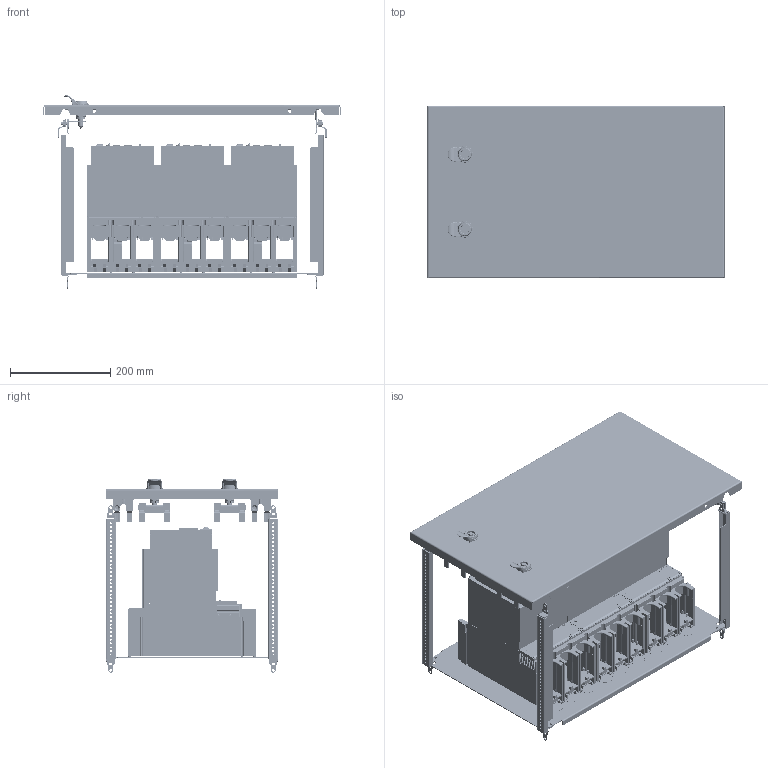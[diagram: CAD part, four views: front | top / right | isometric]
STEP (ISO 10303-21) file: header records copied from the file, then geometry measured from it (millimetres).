
FILE_DESCRIPTION(('CAx-IF Rec.Pracs.---Model Styling and Organization---1.2---2011-12-15','CAx-IF Rec.Pracs.---Geometric and Assembly Validation Properties---4.1---2014-06-16','CAx-IF Rec.Pracs.---PMI Polyline Presentation---2.0---2013-05-24'),'2;1');
FILE_NAME('R5PKEB7V62116 (F-MO).stp','2021-07-29T02:35:56+03:00',(''),(''),'STEP Interface 4.4 by CT CoreTechnologie','3D_Evolution4.4 by CT CoreTechnologie','');
FILE_SCHEMA(('AUTOMOTIVE_DESIGN { 1 0 10303 214 1 1 1 1 }'));
Length unit declared in the file: millimetre
Products named in the file (1): R5PKEB7V62116 (F-MO)
Bounding box: 594 x 345 x 386.9 mm (x, y, z)
Surface area: 3523079.5 mm2 (no closed solid volume)
Topology: 0 solids, 173 shells, 17952 faces, 52764 edges, 34832 vertices
Faces by surface type: plane 11519, cylinder 5192, bspline 1241
Entity records: 618946 total; most frequent: CARTESIAN_POINT 136420, ORIENTED_EDGE 105102, DIRECTION 96367, EDGE_CURVE 52563, VECTOR 40079, LINE 40079, VERTEX_POINT 34883, AXIS2_PLACEMENT_3D 28144
